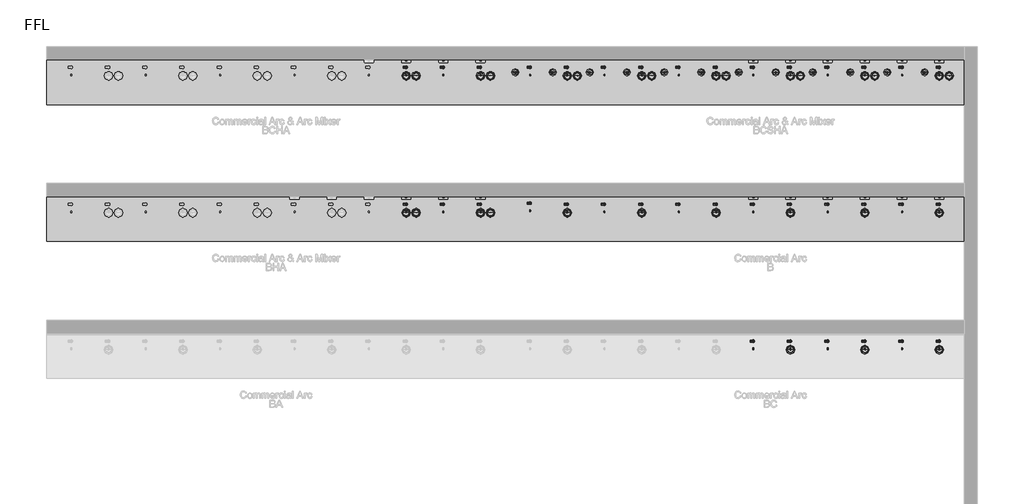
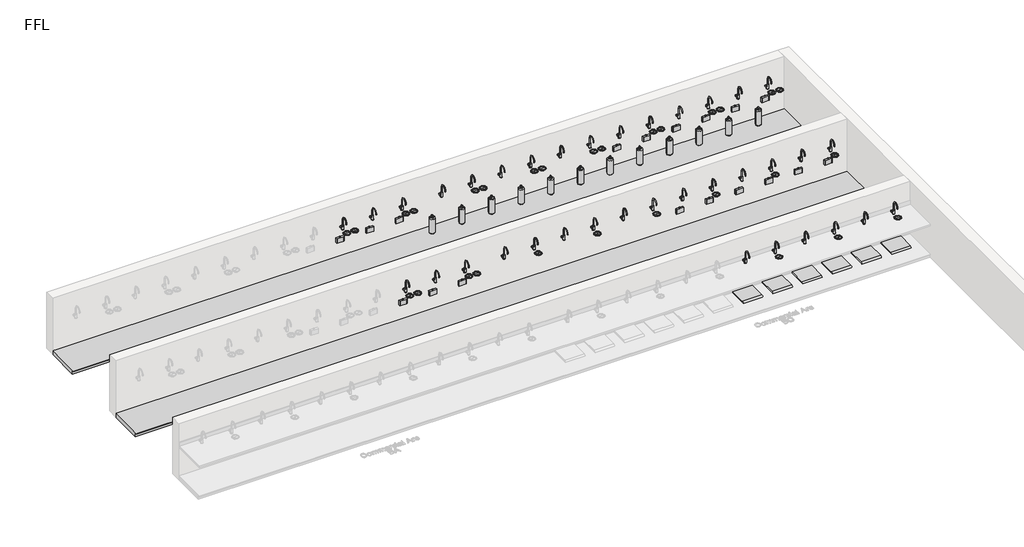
# One storey, part 6 of 10: 104 flow terminals, 2 furniture elements.
"""IFC4 building model written with IfcOpenShell, lengths in millimetres."""

from ifc_helpers import new_model, si_unit, origin, place, context, project, spatial, transform, mapped, element, save
from components import flow_terminal_100_people_matte_black_0dc622b1, flow_terminal_100_people_nickel_19c471c0, bcs_and_bc_6de74493, bright_chrome_743c02cf, bright_chrome_7ff5033f, co2_gas_cylinder_20234e14, generic_plinth_900mm_f287d53f

model = new_model("IFC4")

# Units and contexts
model_context = context("Model", 3, world=origin())
ifc_project = project(units=[si_unit("LENGTHUNIT", "METRE", prefix="MILLI")], contexts=[model_context])

# Site, building, storey
site = spatial("IfcSite", under=ifc_project)
building = spatial("IfcBuilding", under=site)
storey = spatial("IfcBuildingStorey", under=building, Name="FFL", Elevation=0.0)

# Flow terminals
placement = place(None, origin())
flow_terminal_100_people_matte_black_shape = flow_terminal_100_people_matte_black_0dc622b1(model_context)
element("IfcFlowTerminal", 1, ObjectType="PlumFixt_Zip Commercial_Arc_Arc Mixer_BCSHA : 100 People - Gold", at=placement, inside=storey, context=model_context, shape_type="MappedRepresentation", body=[
    mapped(flow_terminal_100_people_matte_black_shape, transform((7279.2647071, 7582.7393304, 0.0), x_axis=(1.0, 0.0, 0.0), y_axis=(0.0, 1.0, 0.0), z_axis=(0.0, 0.0, 1.0))),
])
element("IfcFlowTerminal", 2, ObjectType="PlumFixt_Zip Commercial_Arc_B : 100 People - Gold", at=placement, inside=storey, context=model_context, shape_type="MappedRepresentation", body=[
    mapped(flow_terminal_100_people_matte_black_shape, transform((7279.2647071, 4822.7393304, 0.0), x_axis=(1.0, 0.0, 0.0), y_axis=(0.0, 1.0, 0.0), z_axis=(0.0, 0.0, 1.0))),
])
element("IfcFlowTerminal", 3, ObjectType="PlumFixt_Zip Commercial_Arc_Arc Mixer_BCSHA : 100 People - Gunmetal", at=placement, inside=storey, context=model_context, shape_type="MappedRepresentation", body=[
    mapped(flow_terminal_100_people_matte_black_shape, transform((8029.2647071, 7582.7393304, 0.0), x_axis=(1.0, 0.0, 0.0), y_axis=(0.0, 1.0, 0.0), z_axis=(0.0, 0.0, 1.0))),
])
element("IfcFlowTerminal", 4, ObjectType="PlumFixt_Zip Commercial_Arc_B : 100 People - Gunmetal", at=placement, inside=storey, context=model_context, shape_type="MappedRepresentation", body=[
    mapped(flow_terminal_100_people_matte_black_shape, transform((8029.2647071, 4822.7393304, 0.0), x_axis=(1.0, 0.0, 0.0), y_axis=(0.0, 1.0, 0.0), z_axis=(0.0, 0.0, 1.0))),
])
element("IfcFlowTerminal", 5, ObjectType="PlumFixt_Zip Commercial_Arc_Arc Mixer_BCSHA : 100 People - Matte Black", at=placement, inside=storey, context=model_context, shape_type="MappedRepresentation", body=[
    mapped(flow_terminal_100_people_matte_black_shape, transform((8779.2647071, 7582.7393304, 0.0), x_axis=(1.0, 0.0, 0.0), y_axis=(0.0, 1.0, 0.0), z_axis=(0.0, 0.0, 1.0))),
])
element("IfcFlowTerminal", 6, ObjectType="PlumFixt_Zip Commercial_Arc_B : 100 People - Matte Black", at=placement, inside=storey, context=model_context, shape_type="MappedRepresentation", body=[
    mapped(flow_terminal_100_people_matte_black_shape, transform((8779.2647071, 4822.7393304, 0.0), x_axis=(1.0, 0.0, 0.0), y_axis=(0.0, 1.0, 0.0), z_axis=(0.0, 0.0, 1.0))),
])
element("IfcFlowTerminal", 7, ObjectType="PlumFixt_Zip Commercial_Arc_Arc Mixer_BCHA : 100 People - Nickel", at=placement, inside=storey, context=model_context, shape_type="MappedRepresentation", body=[
    mapped(flow_terminal_100_people_matte_black_shape, transform((279.2647071, 7582.7393304, 0.0), x_axis=(1.0, 0.0, 0.0), y_axis=(0.0, 1.0, 0.0), z_axis=(0.0, 0.0, 1.0))),
])
element("IfcFlowTerminal", 8, ObjectType="PlumFixt_Zip Commercial_Arc_Arc Mixer_BCSHA : 100 People - Nickel", at=placement, inside=storey, context=model_context, shape_type="MappedRepresentation", body=[
    mapped(flow_terminal_100_people_matte_black_shape, transform((9529.2647071, 7582.7393304, 0.0), x_axis=(1.0, 0.0, 0.0), y_axis=(0.0, 1.0, 0.0), z_axis=(0.0, 0.0, 1.0))),
])
element("IfcFlowTerminal", 9, ObjectType="PlumFixt_Zip Commercial_Arc_Arc Mixer_BHA : 100 People - Nickel", at=placement, inside=storey, context=model_context, shape_type="MappedRepresentation", body=[
    mapped(flow_terminal_100_people_matte_black_shape, transform((279.2647071, 4822.7393304, 0.0), x_axis=(1.0, 0.0, 0.0), y_axis=(0.0, 1.0, 0.0), z_axis=(0.0, 0.0, 1.0))),
])
element("IfcFlowTerminal", 10, ObjectType="PlumFixt_Zip Commercial_Arc_B : 100 People - Nickel", at=placement, inside=storey, context=model_context, shape_type="MappedRepresentation", body=[
    mapped(flow_terminal_100_people_matte_black_shape, transform((9529.2647071, 4822.7393304, 0.0), x_axis=(1.0, 0.0, 0.0), y_axis=(0.0, 1.0, 0.0), z_axis=(0.0, 0.0, 1.0))),
])
flow_terminal_100_people_nickel_shape = flow_terminal_100_people_nickel_19c471c0(model_context)
element("IfcFlowTerminal", 11, ObjectType="PlumFixt_Zip Commercial_Arc_BC : 100 People - Nickel", at=placement, inside=storey, context=model_context, shape_type="MappedRepresentation", body=[
    mapped(flow_terminal_100_people_nickel_shape, transform((9529.2647071, 2062.7393304, 0.0), x_axis=(1.0, 0.0, 0.0), y_axis=(0.0, 1.0, 0.0), z_axis=(0.0, 0.0, 1.0))),
])
element("IfcFlowTerminal", 12, ObjectType="PlumFixt_Zip Commercial_Arc_Arc Mixer_BCHA : 100 People - Platinum", at=placement, inside=storey, context=model_context, shape_type="MappedRepresentation", body=[
    mapped(flow_terminal_100_people_matte_black_shape, transform((1029.2647071, 7582.7393304, 0.0), x_axis=(1.0, 0.0, 0.0), y_axis=(0.0, 1.0, 0.0), z_axis=(0.0, 0.0, 1.0))),
])
element("IfcFlowTerminal", 13, ObjectType="PlumFixt_Zip Commercial_Arc_Arc Mixer_BCSHA : 100 People - Platinum", at=placement, inside=storey, context=model_context, shape_type="MappedRepresentation", body=[
    mapped(flow_terminal_100_people_matte_black_shape, transform((10279.2647071, 7582.7393304, 0.0), x_axis=(1.0, 0.0, 0.0), y_axis=(0.0, 1.0, 0.0), z_axis=(0.0, 0.0, 1.0))),
])
element("IfcFlowTerminal", 14, ObjectType="PlumFixt_Zip Commercial_Arc_Arc Mixer_BHA : 100 People - Platinum", at=placement, inside=storey, context=model_context, shape_type="MappedRepresentation", body=[
    mapped(flow_terminal_100_people_matte_black_shape, transform((1029.2647071, 4822.7393304, 0.0), x_axis=(1.0, 0.0, 0.0), y_axis=(0.0, 1.0, 0.0), z_axis=(0.0, 0.0, 1.0))),
])
element("IfcFlowTerminal", 15, ObjectType="PlumFixt_Zip Commercial_Arc_B : 100 People - Platinum", at=placement, inside=storey, context=model_context, shape_type="MappedRepresentation", body=[
    mapped(flow_terminal_100_people_matte_black_shape, transform((10279.2647071, 4822.7393304, 0.0), x_axis=(1.0, 0.0, 0.0), y_axis=(0.0, 1.0, 0.0), z_axis=(0.0, 0.0, 1.0))),
])
element("IfcFlowTerminal", 16, ObjectType="PlumFixt_Zip Commercial_Arc_BC : 100 People - Platinum", at=placement, inside=storey, context=model_context, shape_type="MappedRepresentation", body=[
    mapped(flow_terminal_100_people_nickel_shape, transform((10279.2647071, 2062.7393304, 0.0), x_axis=(1.0, 0.0, 0.0), y_axis=(0.0, 1.0, 0.0), z_axis=(0.0, 0.0, 1.0))),
])
element("IfcFlowTerminal", 17, ObjectType="PlumFixt_Zip Commercial_Arc_Arc Mixer_BCHA : 100 People - Rose Gold", at=placement, inside=storey, context=model_context, shape_type="MappedRepresentation", body=[
    mapped(flow_terminal_100_people_matte_black_shape, transform((1779.2647071, 7582.7393304, 0.0), x_axis=(1.0, 0.0, 0.0), y_axis=(0.0, 1.0, 0.0), z_axis=(0.0, 0.0, 1.0))),
])
element("IfcFlowTerminal", 18, ObjectType="PlumFixt_Zip Commercial_Arc_Arc Mixer_BCSHA : 100 People - Rose Gold", at=placement, inside=storey, context=model_context, shape_type="MappedRepresentation", body=[
    mapped(flow_terminal_100_people_matte_black_shape, transform((11029.2647071, 7582.7393304, 0.0), x_axis=(1.0, 0.0, 0.0), y_axis=(0.0, 1.0, 0.0), z_axis=(0.0, 0.0, 1.0))),
])
element("IfcFlowTerminal", 19, ObjectType="PlumFixt_Zip Commercial_Arc_Arc Mixer_BHA : 100 People - Rose Gold", at=placement, inside=storey, context=model_context, shape_type="MappedRepresentation", body=[
    mapped(flow_terminal_100_people_matte_black_shape, transform((1779.2647071, 4822.7393304, 0.0), x_axis=(1.0, 0.0, 0.0), y_axis=(0.0, 1.0, 0.0), z_axis=(0.0, 0.0, 1.0))),
])
element("IfcFlowTerminal", 20, ObjectType="PlumFixt_Zip Commercial_Arc_B : 100 People - Rose Gold", at=placement, inside=storey, context=model_context, shape_type="MappedRepresentation", body=[
    mapped(flow_terminal_100_people_matte_black_shape, transform((11029.2647071, 4822.7393304, 0.0), x_axis=(1.0, 0.0, 0.0), y_axis=(0.0, 1.0, 0.0), z_axis=(0.0, 0.0, 1.0))),
])
element("IfcFlowTerminal", 21, ObjectType="PlumFixt_Zip Commercial_Arc_BC : 100 People - Rose Gold", at=placement, inside=storey, context=model_context, shape_type="MappedRepresentation", body=[
    mapped(flow_terminal_100_people_nickel_shape, transform((11029.2647071, 2062.7393304, 0.0), x_axis=(1.0, 0.0, 0.0), y_axis=(0.0, 1.0, 0.0), z_axis=(0.0, 0.0, 1.0))),
])
bcs_and_bc_shape = bcs_and_bc_6de74493(model_context)
element("IfcFlowTerminal", 22, ObjectType="z_PlumFixt_Zip_Vent Tray : BCS and BC", at=placement, inside=storey, context=model_context, shape_type="MappedRepresentation", body=[
    mapped(bcs_and_bc_shape, transform((7279.2647071, 2185.7393304, 100.0), x_axis=(1.0, 0.0, 0.0), y_axis=(0.0, 1.0, 0.0), z_axis=(0.0, 0.0, 1.0))),
])
element("IfcFlowTerminal", 23, ObjectType="z_PlumFixt_Zip_Vent Tray : BCS and BC", at=placement, inside=storey, context=model_context, shape_type="MappedRepresentation", body=[
    mapped(bcs_and_bc_shape, transform((8029.2647071, 2185.7393304, 100.0), x_axis=(1.0, 0.0, 0.0), y_axis=(0.0, 1.0, 0.0), z_axis=(0.0, 0.0, 1.0))),
])
element("IfcFlowTerminal", 24, ObjectType="z_PlumFixt_Zip_Vent Tray : BCS and BC", at=placement, inside=storey, context=model_context, shape_type="MappedRepresentation", body=[
    mapped(bcs_and_bc_shape, transform((8779.2647071, 2185.7393304, 100.0), x_axis=(1.0, 0.0, 0.0), y_axis=(0.0, 1.0, 0.0), z_axis=(0.0, 0.0, 1.0))),
])
element("IfcFlowTerminal", 25, ObjectType="z_PlumFixt_Zip_Vent Tray : BCS and BC", at=placement, inside=storey, context=model_context, shape_type="MappedRepresentation", body=[
    mapped(bcs_and_bc_shape, transform((9529.2647071, 2185.7393304, 100.0), x_axis=(1.0, 0.0, 0.0), y_axis=(0.0, 1.0, 0.0), z_axis=(0.0, 0.0, 1.0))),
])
element("IfcFlowTerminal", 26, ObjectType="z_PlumFixt_Zip_Vent Tray : BCS and BC", at=placement, inside=storey, context=model_context, shape_type="MappedRepresentation", body=[
    mapped(bcs_and_bc_shape, transform((10279.2647071, 2185.7393304, 100.0), x_axis=(1.0, 0.0, 0.0), y_axis=(0.0, 1.0, 0.0), z_axis=(0.0, 0.0, 1.0))),
])
element("IfcFlowTerminal", 27, ObjectType="z_PlumFixt_Zip_Vent Tray : BCS and BC", at=placement, inside=storey, context=model_context, shape_type="MappedRepresentation", body=[
    mapped(bcs_and_bc_shape, transform((11029.2647071, 2185.7393304, 100.0), x_axis=(1.0, 0.0, 0.0), y_axis=(0.0, 1.0, 0.0), z_axis=(0.0, 0.0, 1.0))),
])
bright_chrome_shape = bright_chrome_743c02cf(model_context)
element("IfcFlowTerminal", 28, ObjectType="z_PlumFixt_Zip_Font : Bright Chrome", at=placement, inside=storey, context=model_context, shape_type="MappedRepresentation", body=[
    mapped(bright_chrome_shape, transform((3529.2647071, 4751.2393304, 900.0), x_axis=(1.0000000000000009, 0.0, 0.0), y_axis=(0.0, 1.0000000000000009, 0.0), z_axis=(0.0, 0.0, 1.0))),
])
element("IfcFlowTerminal", 29, ObjectType="z_PlumFixt_Zip_Font : Bright Chrome", at=placement, inside=storey, context=model_context, shape_type="MappedRepresentation", body=[
    mapped(bright_chrome_shape, transform((5029.2647071, 4751.2393304, 900.0), x_axis=(1.0000000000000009, 0.0, 0.0), y_axis=(0.0, 1.0000000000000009, 0.0), z_axis=(0.0, 0.0, 1.0))),
])
element("IfcFlowTerminal", 30, ObjectType="z_PlumFixt_Zip_Font : Bright Chrome", at=placement, inside=storey, context=model_context, shape_type="MappedRepresentation", body=[
    mapped(bright_chrome_shape, transform((6529.2647071, 4751.2393304, 900.0), x_axis=(1.0000000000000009, 0.0, 0.0), y_axis=(0.0, 1.0000000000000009, 0.0), z_axis=(0.0, 0.0, 1.0))),
])
element("IfcFlowTerminal", 31, ObjectType="z_PlumFixt_Zip_Font : Bright Chrome", at=placement, inside=storey, context=model_context, shape_type="MappedRepresentation", body=[
    mapped(bright_chrome_shape, transform((8029.2647071, 4751.2393304, 900.0), x_axis=(1.0000000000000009, 0.0, 0.0), y_axis=(0.0, 1.0000000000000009, 0.0), z_axis=(0.0, 0.0, 1.0))),
])
element("IfcFlowTerminal", 32, ObjectType="z_PlumFixt_Zip_Font : Bright Chrome", at=placement, inside=storey, context=model_context, shape_type="MappedRepresentation", body=[
    mapped(bright_chrome_shape, transform((9529.2647071, 4751.2393304, 900.0), x_axis=(1.0000000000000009, 0.0, 0.0), y_axis=(0.0, 1.0000000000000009, 0.0), z_axis=(0.0, 0.0, 1.0))),
])
element("IfcFlowTerminal", 33, ObjectType="z_PlumFixt_Zip_Font : Bright Chrome", at=placement, inside=storey, context=model_context, shape_type="MappedRepresentation", body=[
    mapped(bright_chrome_shape, transform((11029.2647071, 4751.2393304, 900.0), x_axis=(1.0000000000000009, 0.0, 0.0), y_axis=(0.0, 1.0000000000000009, 0.0), z_axis=(0.0, 0.0, 1.0))),
])
element("IfcFlowTerminal", 34, ObjectType="z_PlumFixt_Zip_Font : Bright Chrome", at=placement, inside=storey, context=model_context, shape_type="MappedRepresentation", body=[
    mapped(bright_chrome_shape, transform((8029.2647071, 1991.2393304, 900.0), x_axis=(1.0000000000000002, 0.0, 0.0), y_axis=(0.0, 1.0000000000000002, 0.0), z_axis=(0.0, 0.0, 1.0))),
])
element("IfcFlowTerminal", 35, ObjectType="z_PlumFixt_Zip_Font : Bright Chrome", at=placement, inside=storey, context=model_context, shape_type="MappedRepresentation", body=[
    mapped(bright_chrome_shape, transform((9529.2647071, 1991.2393304, 900.0), x_axis=(1.0000000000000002, 0.0, 0.0), y_axis=(0.0, 1.0000000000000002, 0.0), z_axis=(0.0, 0.0, 1.0))),
])
element("IfcFlowTerminal", 36, ObjectType="z_PlumFixt_Zip_Font : Bright Chrome", at=placement, inside=storey, context=model_context, shape_type="MappedRepresentation", body=[
    mapped(bright_chrome_shape, transform((11029.2647071, 1991.2393304, 900.0), x_axis=(1.0000000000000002, 0.0, 0.0), y_axis=(0.0, 1.0000000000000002, 0.0), z_axis=(0.0, 0.0, 1.0))),
])
element("IfcFlowTerminal", 37, ObjectType="z_PlumFixt_Zip_Font : Bright Chrome", at=placement, inside=storey, context=model_context, shape_type="MappedRepresentation", body=[
    mapped(bright_chrome_shape, transform((279.2647071, 7511.2393304, 900.0), x_axis=(1.0000000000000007, 0.0, 0.0), y_axis=(0.0, 1.0000000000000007, 0.0), z_axis=(0.0, 0.0, 1.0))),
])
element("IfcFlowTerminal", 38, ObjectType="z_PlumFixt_Zip_Font : Bright Chrome", at=placement, inside=storey, context=model_context, shape_type="MappedRepresentation", body=[
    mapped(bright_chrome_shape, transform((1779.2647071, 7511.2393304, 900.0), x_axis=(1.0000000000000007, 0.0, 0.0), y_axis=(0.0, 1.0000000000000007, 0.0), z_axis=(0.0, 0.0, 1.0))),
])
element("IfcFlowTerminal", 39, ObjectType="z_PlumFixt_Zip_Font : Bright Chrome", at=placement, inside=storey, context=model_context, shape_type="MappedRepresentation", body=[
    mapped(bright_chrome_shape, transform((479.2647071, 7511.2393304, 900.0), x_axis=(1.0000000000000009, 0.0, 0.0), y_axis=(0.0, 1.0000000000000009, 0.0), z_axis=(0.0, 0.0, 1.0))),
])
element("IfcFlowTerminal", 40, ObjectType="z_PlumFixt_Zip_Font : Bright Chrome", at=placement, inside=storey, context=model_context, shape_type="MappedRepresentation", body=[
    mapped(bright_chrome_shape, transform((1979.2647071, 7511.2393304, 900.0), x_axis=(1.0000000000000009, 0.0, 0.0), y_axis=(0.0, 1.0000000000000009, 0.0), z_axis=(0.0, 0.0, 1.0))),
])
element("IfcFlowTerminal", 41, ObjectType="z_PlumFixt_Zip_Font : Bright Chrome", at=placement, inside=storey, context=model_context, shape_type="MappedRepresentation", body=[
    mapped(bright_chrome_shape, transform((3529.2647071, 7511.2393304, 900.0), x_axis=(1.0000000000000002, 0.0, 0.0), y_axis=(0.0, 1.0000000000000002, 0.0), z_axis=(0.0, 0.0, 1.0))),
])
element("IfcFlowTerminal", 42, ObjectType="z_PlumFixt_Zip_Font : Bright Chrome", at=placement, inside=storey, context=model_context, shape_type="MappedRepresentation", body=[
    mapped(bright_chrome_shape, transform((3729.2647071, 7511.2393304, 900.0), x_axis=(1.0000000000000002, 0.0, 0.0), y_axis=(0.0, 1.0000000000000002, 0.0), z_axis=(0.0, 0.0, 1.0))),
])
element("IfcFlowTerminal", 43, ObjectType="z_PlumFixt_Zip_Font : Bright Chrome", at=placement, inside=storey, context=model_context, shape_type="MappedRepresentation", body=[
    mapped(bright_chrome_shape, transform((5029.2647071, 7511.2393304, 900.0), x_axis=(1.0000000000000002, 0.0, 0.0), y_axis=(0.0, 1.0000000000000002, 0.0), z_axis=(0.0, 0.0, 1.0))),
])
element("IfcFlowTerminal", 44, ObjectType="z_PlumFixt_Zip_Font : Bright Chrome", at=placement, inside=storey, context=model_context, shape_type="MappedRepresentation", body=[
    mapped(bright_chrome_shape, transform((5229.2647071, 7511.2393304, 900.0), x_axis=(1.0000000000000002, 0.0, 0.0), y_axis=(0.0, 1.0000000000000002, 0.0), z_axis=(0.0, 0.0, 1.0))),
])
element("IfcFlowTerminal", 45, ObjectType="z_PlumFixt_Zip_Font : Bright Chrome", at=placement, inside=storey, context=model_context, shape_type="MappedRepresentation", body=[
    mapped(bright_chrome_shape, transform((6529.2647071, 7511.2393304, 900.0), x_axis=(1.0000000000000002, 0.0, 0.0), y_axis=(0.0, 1.0000000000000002, 0.0), z_axis=(0.0, 0.0, 1.0))),
])
element("IfcFlowTerminal", 46, ObjectType="z_PlumFixt_Zip_Font : Bright Chrome", at=placement, inside=storey, context=model_context, shape_type="MappedRepresentation", body=[
    mapped(bright_chrome_shape, transform((6729.2647071, 7511.2393304, 900.0), x_axis=(1.0000000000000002, 0.0, 0.0), y_axis=(0.0, 1.0000000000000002, 0.0), z_axis=(0.0, 0.0, 1.0))),
])
element("IfcFlowTerminal", 47, ObjectType="z_PlumFixt_Zip_Font : Bright Chrome", at=placement, inside=storey, context=model_context, shape_type="MappedRepresentation", body=[
    mapped(bright_chrome_shape, transform((8029.2647071, 7511.2393304, 900.0), x_axis=(1.0000000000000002, 0.0, 0.0), y_axis=(0.0, 1.0000000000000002, 0.0), z_axis=(0.0, 0.0, 1.0))),
])
element("IfcFlowTerminal", 48, ObjectType="z_PlumFixt_Zip_Font : Bright Chrome", at=placement, inside=storey, context=model_context, shape_type="MappedRepresentation", body=[
    mapped(bright_chrome_shape, transform((8229.2647071, 7511.2393304, 900.0), x_axis=(1.0000000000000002, 0.0, 0.0), y_axis=(0.0, 1.0000000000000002, 0.0), z_axis=(0.0, 0.0, 1.0))),
])
element("IfcFlowTerminal", 49, ObjectType="z_PlumFixt_Zip_Font : Bright Chrome", at=placement, inside=storey, context=model_context, shape_type="MappedRepresentation", body=[
    mapped(bright_chrome_shape, transform((11029.2647071, 7511.2393304, 900.0), x_axis=(1.0000000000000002, 0.0, 0.0), y_axis=(0.0, 1.0000000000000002, 0.0), z_axis=(0.0, 0.0, 1.0))),
])
element("IfcFlowTerminal", 50, ObjectType="z_PlumFixt_Zip_Font : Bright Chrome", at=placement, inside=storey, context=model_context, shape_type="MappedRepresentation", body=[
    mapped(bright_chrome_shape, transform((11229.2647071, 7511.2393304, 900.0), x_axis=(1.0000000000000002, 0.0, 0.0), y_axis=(0.0, 1.0000000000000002, 0.0), z_axis=(0.0, 0.0, 1.0))),
])
element("IfcFlowTerminal", 51, ObjectType="z_PlumFixt_Zip_Font : Bright Chrome", at=placement, inside=storey, context=model_context, shape_type="MappedRepresentation", body=[
    mapped(bright_chrome_shape, transform((9529.2647071, 7511.2393304, 900.0), x_axis=(1.0000000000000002, 0.0, 0.0), y_axis=(0.0, 1.0000000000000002, 0.0), z_axis=(0.0, 0.0, 1.0))),
])
element("IfcFlowTerminal", 52, ObjectType="z_PlumFixt_Zip_Font : Bright Chrome", at=placement, inside=storey, context=model_context, shape_type="MappedRepresentation", body=[
    mapped(bright_chrome_shape, transform((9729.2647071, 7511.2393304, 900.0), x_axis=(1.0000000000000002, 0.0, 0.0), y_axis=(0.0, 1.0000000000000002, 0.0), z_axis=(0.0, 0.0, 1.0))),
])
element("IfcFlowTerminal", 53, ObjectType="z_PlumFixt_Zip_Font : Bright Chrome", at=placement, inside=storey, context=model_context, shape_type="MappedRepresentation", body=[
    mapped(bright_chrome_shape, transform((279.2647071, 4751.2393304, 900.0), x_axis=(1.0000000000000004, 0.0, 0.0), y_axis=(0.0, 1.0000000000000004, 0.0), z_axis=(0.0, 0.0, 1.0))),
])
element("IfcFlowTerminal", 54, ObjectType="z_PlumFixt_Zip_Font : Bright Chrome", at=placement, inside=storey, context=model_context, shape_type="MappedRepresentation", body=[
    mapped(bright_chrome_shape, transform((1779.2647071, 4751.2393304, 900.0), x_axis=(1.0000000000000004, 0.0, 0.0), y_axis=(0.0, 1.0000000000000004, 0.0), z_axis=(0.0, 0.0, 1.0))),
])
element("IfcFlowTerminal", 55, ObjectType="z_PlumFixt_Zip_Font : Bright Chrome", at=placement, inside=storey, context=model_context, shape_type="MappedRepresentation", body=[
    mapped(bright_chrome_shape, transform((479.2647071, 4751.2393304, 900.0), x_axis=(1.0000000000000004, 0.0, 0.0), y_axis=(0.0, 1.0000000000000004, 0.0), z_axis=(0.0, 0.0, 1.0))),
])
element("IfcFlowTerminal", 56, ObjectType="z_PlumFixt_Zip_Font : Bright Chrome", at=placement, inside=storey, context=model_context, shape_type="MappedRepresentation", body=[
    mapped(bright_chrome_shape, transform((1979.2647071, 4751.2393304, 900.0), x_axis=(1.0000000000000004, 0.0, 0.0), y_axis=(0.0, 1.0000000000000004, 0.0), z_axis=(0.0, 0.0, 1.0))),
])
bright_chrome_2_shape = bright_chrome_7ff5033f(model_context)
element("IfcFlowTerminal", 57, ObjectType="z_PlumFixt_Zip_Arc : Bright Chrome", at=placement, inside=storey, context=model_context, shape_type="MappedRepresentation", body=[
    mapped(bright_chrome_2_shape, transform((2762.2647071, 4874.763717, 900.0), x_axis=(1.0000000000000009, 0.0, 0.0), y_axis=(0.0, 1.0000000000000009, 0.0), z_axis=(0.0, 0.0, 1.0))),
])
element("IfcFlowTerminal", 58, ObjectType="z_PlumFixt_Zip_Arc : Bright Chrome", at=placement, inside=storey, context=model_context, shape_type="MappedRepresentation", body=[
    mapped(bright_chrome_2_shape, transform((2762.2647071, 7610.7393304, 900.0), x_axis=(1.0000000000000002, 0.0, 0.0), y_axis=(0.0, 1.0000000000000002, 0.0), z_axis=(0.0, 0.0, 1.0))),
])
element("IfcFlowTerminal", 59, ObjectType="z_PlumFixt_Zip_Arc : Brushed Chrome", at=placement, inside=storey, context=model_context, shape_type="MappedRepresentation", body=[
    mapped(bright_chrome_2_shape, transform((3512.2647071, 4850.7393304, 900.0), x_axis=(1.0000000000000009, 0.0, 0.0), y_axis=(0.0, 1.0000000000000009, 0.0), z_axis=(0.0, 0.0, 1.0))),
])
element("IfcFlowTerminal", 60, ObjectType="z_PlumFixt_Zip_Arc : Brushed Chrome", at=placement, inside=storey, context=model_context, shape_type="MappedRepresentation", body=[
    mapped(bright_chrome_2_shape, transform((3512.2647071, 7610.7393304, 900.0), x_axis=(1.0000000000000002, 0.0, 0.0), y_axis=(0.0, 1.0000000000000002, 0.0), z_axis=(0.0, 0.0, 1.0))),
])
element("IfcFlowTerminal", 61, ObjectType="z_PlumFixt_Zip_Arc : Brushed Gold", at=placement, inside=storey, context=model_context, shape_type="MappedRepresentation", body=[
    mapped(bright_chrome_2_shape, transform((4262.2647071, 4850.7393304, 900.0), x_axis=(1.0000000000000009, 0.0, 0.0), y_axis=(0.0, 1.0000000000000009, 0.0), z_axis=(0.0, 0.0, 1.0))),
])
element("IfcFlowTerminal", 62, ObjectType="z_PlumFixt_Zip_Arc : Brushed Gold", at=placement, inside=storey, context=model_context, shape_type="MappedRepresentation", body=[
    mapped(bright_chrome_2_shape, transform((4262.2647071, 7610.7393304, 900.0), x_axis=(1.0000000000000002, 0.0, 0.0), y_axis=(0.0, 1.0000000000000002, 0.0), z_axis=(0.0, 0.0, 1.0))),
])
element("IfcFlowTerminal", 63, ObjectType="z_PlumFixt_Zip_Arc : Brushed Nickel", at=placement, inside=storey, context=model_context, shape_type="MappedRepresentation", body=[
    mapped(bright_chrome_2_shape, transform((5012.2647071, 4850.7393304, 900.0), x_axis=(1.0000000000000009, 0.0, 0.0), y_axis=(0.0, 1.0000000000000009, 0.0), z_axis=(0.0, 0.0, 1.0))),
])
element("IfcFlowTerminal", 64, ObjectType="z_PlumFixt_Zip_Arc : Brushed Nickel", at=placement, inside=storey, context=model_context, shape_type="MappedRepresentation", body=[
    mapped(bright_chrome_2_shape, transform((5012.2647071, 7610.7393304, 900.0), x_axis=(1.0000000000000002, 0.0, 0.0), y_axis=(0.0, 1.0000000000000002, 0.0), z_axis=(0.0, 0.0, 1.0))),
])
element("IfcFlowTerminal", 65, ObjectType="z_PlumFixt_Zip_Arc : Brushed Rose Gold", at=placement, inside=storey, context=model_context, shape_type="MappedRepresentation", body=[
    mapped(bright_chrome_2_shape, transform((5762.2647071, 4850.7393304, 900.0), x_axis=(1.0000000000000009, 0.0, 0.0), y_axis=(0.0, 1.0000000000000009, 0.0), z_axis=(0.0, 0.0, 1.0))),
])
element("IfcFlowTerminal", 66, ObjectType="z_PlumFixt_Zip_Arc : Brushed Rose Gold", at=placement, inside=storey, context=model_context, shape_type="MappedRepresentation", body=[
    mapped(bright_chrome_2_shape, transform((5762.2647071, 7610.7393304, 900.0), x_axis=(1.0000000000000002, 0.0, 0.0), y_axis=(0.0, 1.0000000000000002, 0.0), z_axis=(0.0, 0.0, 1.0))),
])
co2_gas_cylinder_shape = co2_gas_cylinder_20234e14(model_context)
element("IfcFlowTerminal", 67, ObjectType="z_PlumFixt_Zip_CO2 Gas Cylinder : CO2 Gas Cylinder", at=placement, inside=storey, context=model_context, shape_type="MappedRepresentation", body=[
    mapped(co2_gas_cylinder_shape, transform((2484.2647071, 7509.2393304, 100.0), x_axis=(-1.0, 0.0, 0.0), y_axis=(0.0, -1.0, 0.0), z_axis=(0.0, 0.0, 1.0))),
])
element("IfcFlowTerminal", 68, ObjectType="z_PlumFixt_Zip_CO2 Gas Cylinder : CO2 Gas Cylinder", at=placement, inside=storey, context=model_context, shape_type="MappedRepresentation", body=[
    mapped(co2_gas_cylinder_shape, transform((3234.2647071, 7509.2393304, 100.0), x_axis=(-1.0, 0.0, 0.0), y_axis=(0.0, -1.0, 0.0), z_axis=(0.0, 0.0, 1.0))),
])
element("IfcFlowTerminal", 69, ObjectType="z_PlumFixt_Zip_CO2 Gas Cylinder : CO2 Gas Cylinder", at=placement, inside=storey, context=model_context, shape_type="MappedRepresentation", body=[
    mapped(co2_gas_cylinder_shape, transform((3984.2647071, 7509.2393304, 100.0), x_axis=(-1.0, 0.0, 0.0), y_axis=(0.0, -1.0, 0.0), z_axis=(0.0, 0.0, 1.0))),
])
element("IfcFlowTerminal", 70, ObjectType="z_PlumFixt_Zip_CO2 Gas Cylinder : CO2 Gas Cylinder", at=placement, inside=storey, context=model_context, shape_type="MappedRepresentation", body=[
    mapped(co2_gas_cylinder_shape, transform((4734.2647071, 7509.2393304, 100.0), x_axis=(-1.0, 0.0, 0.0), y_axis=(0.0, -1.0, 0.0), z_axis=(0.0, 0.0, 1.0))),
])
element("IfcFlowTerminal", 71, ObjectType="z_PlumFixt_Zip_CO2 Gas Cylinder : CO2 Gas Cylinder", at=placement, inside=storey, context=model_context, shape_type="MappedRepresentation", body=[
    mapped(co2_gas_cylinder_shape, transform((5484.2647071, 7509.2393304, 100.0), x_axis=(-1.0, 0.0, 0.0), y_axis=(0.0, -1.0, 0.0), z_axis=(0.0, 0.0, 1.0))),
])
element("IfcFlowTerminal", 72, ObjectType="z_PlumFixt_Zip_CO2 Gas Cylinder : CO2 Gas Cylinder", at=placement, inside=storey, context=model_context, shape_type="MappedRepresentation", body=[
    mapped(co2_gas_cylinder_shape, transform((6234.2647071, 7509.2393304, 100.0), x_axis=(-1.0, 0.0, 0.0), y_axis=(0.0, -1.0, 0.0), z_axis=(0.0, 0.0, 1.0))),
])
element("IfcFlowTerminal", 73, ObjectType="z_PlumFixt_Zip_CO2 Gas Cylinder : CO2 Gas Cylinder", at=placement, inside=storey, context=model_context, shape_type="MappedRepresentation", body=[
    mapped(co2_gas_cylinder_shape, transform((6984.2647071, 7509.2393304, 100.0), x_axis=(-1.0, 0.0, 0.0), y_axis=(0.0, -1.0, 0.0), z_axis=(0.0, 0.0, 1.0))),
])
element("IfcFlowTerminal", 74, ObjectType="z_PlumFixt_Zip_CO2 Gas Cylinder : CO2 Gas Cylinder", at=placement, inside=storey, context=model_context, shape_type="MappedRepresentation", body=[
    mapped(co2_gas_cylinder_shape, transform((7734.2647071, 7509.2393304, 100.0), x_axis=(-1.0, 0.0, 0.0), y_axis=(0.0, -1.0, 0.0), z_axis=(0.0, 0.0, 1.0))),
])
element("IfcFlowTerminal", 75, ObjectType="z_PlumFixt_Zip_CO2 Gas Cylinder : CO2 Gas Cylinder", at=placement, inside=storey, context=model_context, shape_type="MappedRepresentation", body=[
    mapped(co2_gas_cylinder_shape, transform((8484.2647071, 7509.2393304, 100.0), x_axis=(-1.0, 0.0, 0.0), y_axis=(0.0, -1.0, 0.0), z_axis=(0.0, 0.0, 1.0))),
])
element("IfcFlowTerminal", 76, ObjectType="z_PlumFixt_Zip_CO2 Gas Cylinder : CO2 Gas Cylinder", at=placement, inside=storey, context=model_context, shape_type="MappedRepresentation", body=[
    mapped(co2_gas_cylinder_shape, transform((9234.2647071, 7509.2393304, 100.0), x_axis=(-1.0, 0.0, 0.0), y_axis=(0.0, -1.0, 0.0), z_axis=(0.0, 0.0, 1.0))),
])
element("IfcFlowTerminal", 77, ObjectType="z_PlumFixt_Zip_CO2 Gas Cylinder : CO2 Gas Cylinder", at=placement, inside=storey, context=model_context, shape_type="MappedRepresentation", body=[
    mapped(co2_gas_cylinder_shape, transform((9984.2647071, 7509.2393304, 100.0), x_axis=(-1.0, 0.0, 0.0), y_axis=(0.0, -1.0, 0.0), z_axis=(0.0, 0.0, 1.0))),
])
element("IfcFlowTerminal", 78, ObjectType="z_PlumFixt_Zip_CO2 Gas Cylinder : CO2 Gas Cylinder", at=placement, inside=storey, context=model_context, shape_type="MappedRepresentation", body=[
    mapped(co2_gas_cylinder_shape, transform((10734.2647071, 7509.2393304, 100.0), x_axis=(-1.0, 0.0, 0.0), y_axis=(0.0, -1.0, 0.0), z_axis=(0.0, 0.0, 1.0))),
])
element("IfcFlowTerminal", 79, ObjectType="z_PlumFixt_Zip_Arc : Gloss Black", at=placement, inside=storey, context=model_context, shape_type="MappedRepresentation", body=[
    mapped(bright_chrome_2_shape, transform((6512.2647071, 4850.7393304, 900.0), x_axis=(1.0000000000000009, 0.0, 0.0), y_axis=(0.0, 1.0000000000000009, 0.0), z_axis=(0.0, 0.0, 1.0))),
])
element("IfcFlowTerminal", 80, ObjectType="z_PlumFixt_Zip_Arc : Gloss Black", at=placement, inside=storey, context=model_context, shape_type="MappedRepresentation", body=[
    mapped(bright_chrome_2_shape, transform((6512.2647071, 7610.7393304, 900.0), x_axis=(1.0000000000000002, 0.0, 0.0), y_axis=(0.0, 1.0000000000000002, 0.0), z_axis=(0.0, 0.0, 1.0))),
])
element("IfcFlowTerminal", 81, ObjectType="z_PlumFixt_Zip_Arc : Gold", at=placement, inside=storey, context=model_context, shape_type="MappedRepresentation", body=[
    mapped(bright_chrome_2_shape, transform((7262.2647071, 4850.7393304, 900.0), x_axis=(1.0000000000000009, 0.0, 0.0), y_axis=(0.0, 1.0000000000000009, 0.0), z_axis=(0.0, 0.0, 1.0))),
])
element("IfcFlowTerminal", 82, ObjectType="z_PlumFixt_Zip_Arc : Gold", at=placement, inside=storey, context=model_context, shape_type="MappedRepresentation", body=[
    mapped(bright_chrome_2_shape, transform((7262.2647071, 2090.7393304, 900.0), x_axis=(1.0000000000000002, 0.0, 0.0), y_axis=(0.0, 1.0000000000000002, 0.0), z_axis=(0.0, 0.0, 1.0))),
])
element("IfcFlowTerminal", 83, ObjectType="z_PlumFixt_Zip_Arc : Gold", at=placement, inside=storey, context=model_context, shape_type="MappedRepresentation", body=[
    mapped(bright_chrome_2_shape, transform((7262.2647071, 7610.7393304, 900.0), x_axis=(1.0000000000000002, 0.0, 0.0), y_axis=(0.0, 1.0000000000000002, 0.0), z_axis=(0.0, 0.0, 1.0))),
])
element("IfcFlowTerminal", 84, ObjectType="z_PlumFixt_Zip_Arc : Gunmetal", at=placement, inside=storey, context=model_context, shape_type="MappedRepresentation", body=[
    mapped(bright_chrome_2_shape, transform((8012.2647071, 4850.7393304, 900.0), x_axis=(1.0000000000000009, 0.0, 0.0), y_axis=(0.0, 1.0000000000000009, 0.0), z_axis=(0.0, 0.0, 1.0))),
])
element("IfcFlowTerminal", 85, ObjectType="z_PlumFixt_Zip_Arc : Gunmetal", at=placement, inside=storey, context=model_context, shape_type="MappedRepresentation", body=[
    mapped(bright_chrome_2_shape, transform((8012.2647071, 2090.7393304, 900.0), x_axis=(1.0000000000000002, 0.0, 0.0), y_axis=(0.0, 1.0000000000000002, 0.0), z_axis=(0.0, 0.0, 1.0))),
])
element("IfcFlowTerminal", 86, ObjectType="z_PlumFixt_Zip_Arc : Gunmetal", at=placement, inside=storey, context=model_context, shape_type="MappedRepresentation", body=[
    mapped(bright_chrome_2_shape, transform((8012.2647071, 7610.7393304, 900.0), x_axis=(1.0000000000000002, 0.0, 0.0), y_axis=(0.0, 1.0000000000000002, 0.0), z_axis=(0.0, 0.0, 1.0))),
])
element("IfcFlowTerminal", 87, ObjectType="z_PlumFixt_Zip_Arc : Matte Black", at=placement, inside=storey, context=model_context, shape_type="MappedRepresentation", body=[
    mapped(bright_chrome_2_shape, transform((8762.2647071, 4850.7393304, 900.0), x_axis=(1.0000000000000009, 0.0, 0.0), y_axis=(0.0, 1.0000000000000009, 0.0), z_axis=(0.0, 0.0, 1.0))),
])
element("IfcFlowTerminal", 88, ObjectType="z_PlumFixt_Zip_Arc : Matte Black", at=placement, inside=storey, context=model_context, shape_type="MappedRepresentation", body=[
    mapped(bright_chrome_2_shape, transform((8762.2647071, 2090.7393304, 900.0), x_axis=(1.0000000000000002, 0.0, 0.0), y_axis=(0.0, 1.0000000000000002, 0.0), z_axis=(0.0, 0.0, 1.0))),
])
element("IfcFlowTerminal", 89, ObjectType="z_PlumFixt_Zip_Arc : Matte Black", at=placement, inside=storey, context=model_context, shape_type="MappedRepresentation", body=[
    mapped(bright_chrome_2_shape, transform((8762.2647071, 7610.7393304, 900.0), x_axis=(1.0000000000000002, 0.0, 0.0), y_axis=(0.0, 1.0000000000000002, 0.0), z_axis=(0.0, 0.0, 1.0))),
])
element("IfcFlowTerminal", 90, ObjectType="z_PlumFixt_Zip_Arc : Nickel", at=placement, inside=storey, context=model_context, shape_type="MappedRepresentation", body=[
    mapped(bright_chrome_2_shape, transform((9512.2647071, 4850.7393304, 900.0), x_axis=(1.0000000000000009, 0.0, 0.0), y_axis=(0.0, 1.0000000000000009, 0.0), z_axis=(0.0, 0.0, 1.0))),
])
element("IfcFlowTerminal", 91, ObjectType="z_PlumFixt_Zip_Arc : Nickel", at=placement, inside=storey, context=model_context, shape_type="MappedRepresentation", body=[
    mapped(bright_chrome_2_shape, transform((9512.2647071, 2090.7393304, 900.0), x_axis=(1.0000000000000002, 0.0, 0.0), y_axis=(0.0, 1.0000000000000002, 0.0), z_axis=(0.0, 0.0, 1.0))),
])
element("IfcFlowTerminal", 92, ObjectType="z_PlumFixt_Zip_Arc : Nickel", at=placement, inside=storey, context=model_context, shape_type="MappedRepresentation", body=[
    mapped(bright_chrome_2_shape, transform((262.2647071, 7610.7393304, 900.0), x_axis=(1.0000000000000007, 0.0, 0.0), y_axis=(0.0, 1.0000000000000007, 0.0), z_axis=(0.0, 0.0, 1.0))),
])
element("IfcFlowTerminal", 93, ObjectType="z_PlumFixt_Zip_Arc : Nickel", at=placement, inside=storey, context=model_context, shape_type="MappedRepresentation", body=[
    mapped(bright_chrome_2_shape, transform((9512.2647071, 7610.7393304, 900.0), x_axis=(1.0000000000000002, 0.0, 0.0), y_axis=(0.0, 1.0000000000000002, 0.0), z_axis=(0.0, 0.0, 1.0))),
])
element("IfcFlowTerminal", 94, ObjectType="z_PlumFixt_Zip_Arc : Nickel", at=placement, inside=storey, context=model_context, shape_type="MappedRepresentation", body=[
    mapped(bright_chrome_2_shape, transform((262.2647071, 4850.7393304, 900.0), x_axis=(1.0000000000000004, 0.0, 0.0), y_axis=(0.0, 1.0000000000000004, 0.0), z_axis=(0.0, 0.0, 1.0))),
])
element("IfcFlowTerminal", 95, ObjectType="z_PlumFixt_Zip_Arc : Platinum", at=placement, inside=storey, context=model_context, shape_type="MappedRepresentation", body=[
    mapped(bright_chrome_2_shape, transform((10262.2647071, 4850.7393304, 900.0), x_axis=(1.0000000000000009, 0.0, 0.0), y_axis=(0.0, 1.0000000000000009, 0.0), z_axis=(0.0, 0.0, 1.0))),
])
element("IfcFlowTerminal", 96, ObjectType="z_PlumFixt_Zip_Arc : Platinum", at=placement, inside=storey, context=model_context, shape_type="MappedRepresentation", body=[
    mapped(bright_chrome_2_shape, transform((10262.2647071, 2090.7393304, 900.0), x_axis=(1.0000000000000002, 0.0, 0.0), y_axis=(0.0, 1.0000000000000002, 0.0), z_axis=(0.0, 0.0, 1.0))),
])
element("IfcFlowTerminal", 97, ObjectType="z_PlumFixt_Zip_Arc : Platinum", at=placement, inside=storey, context=model_context, shape_type="MappedRepresentation", body=[
    mapped(bright_chrome_2_shape, transform((1012.2647071, 7610.7393304, 900.0), x_axis=(1.0000000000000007, 0.0, 0.0), y_axis=(0.0, 1.0000000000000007, 0.0), z_axis=(0.0, 0.0, 1.0))),
])
element("IfcFlowTerminal", 98, ObjectType="z_PlumFixt_Zip_Arc : Platinum", at=placement, inside=storey, context=model_context, shape_type="MappedRepresentation", body=[
    mapped(bright_chrome_2_shape, transform((10262.2647071, 7610.7393304, 900.0), x_axis=(1.0000000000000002, 0.0, 0.0), y_axis=(0.0, 1.0000000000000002, 0.0), z_axis=(0.0, 0.0, 1.0))),
])
element("IfcFlowTerminal", 99, ObjectType="z_PlumFixt_Zip_Arc : Platinum", at=placement, inside=storey, context=model_context, shape_type="MappedRepresentation", body=[
    mapped(bright_chrome_2_shape, transform((1012.2647071, 4850.7393304, 900.0), x_axis=(1.0000000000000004, 0.0, 0.0), y_axis=(0.0, 1.0000000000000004, 0.0), z_axis=(0.0, 0.0, 1.0))),
])
element("IfcFlowTerminal", 100, ObjectType="z_PlumFixt_Zip_Arc : Rose Gold", at=placement, inside=storey, context=model_context, shape_type="MappedRepresentation", body=[
    mapped(bright_chrome_2_shape, transform((11012.2647071, 4850.7393304, 900.0), x_axis=(1.0000000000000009, 0.0, 0.0), y_axis=(0.0, 1.0000000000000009, 0.0), z_axis=(0.0, 0.0, 1.0))),
])
element("IfcFlowTerminal", 101, ObjectType="z_PlumFixt_Zip_Arc : Rose Gold", at=placement, inside=storey, context=model_context, shape_type="MappedRepresentation", body=[
    mapped(bright_chrome_2_shape, transform((11012.2647071, 2090.7393304, 900.0), x_axis=(1.0000000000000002, 0.0, 0.0), y_axis=(0.0, 1.0000000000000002, 0.0), z_axis=(0.0, 0.0, 1.0))),
])
element("IfcFlowTerminal", 102, ObjectType="z_PlumFixt_Zip_Arc : Rose Gold", at=placement, inside=storey, context=model_context, shape_type="MappedRepresentation", body=[
    mapped(bright_chrome_2_shape, transform((1762.2647071, 7610.7393304, 900.0), x_axis=(1.0000000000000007, 0.0, 0.0), y_axis=(0.0, 1.0000000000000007, 0.0), z_axis=(0.0, 0.0, 1.0))),
])
element("IfcFlowTerminal", 103, ObjectType="z_PlumFixt_Zip_Arc : Rose Gold", at=placement, inside=storey, context=model_context, shape_type="MappedRepresentation", body=[
    mapped(bright_chrome_2_shape, transform((11012.2647071, 7610.7393304, 900.0), x_axis=(1.0000000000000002, 0.0, 0.0), y_axis=(0.0, 1.0000000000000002, 0.0), z_axis=(0.0, 0.0, 1.0))),
])
element("IfcFlowTerminal", 104, ObjectType="z_PlumFixt_Zip_Arc : Rose Gold", at=placement, inside=storey, context=model_context, shape_type="MappedRepresentation", body=[
    mapped(bright_chrome_2_shape, transform((1762.2647071, 4850.7393304, 900.0), x_axis=(1.0000000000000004, 0.0, 0.0), y_axis=(0.0, 1.0000000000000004, 0.0), z_axis=(0.0, 0.0, 1.0))),
])

# Furniture
generic_plinth_900mm_shape = generic_plinth_900mm_f287d53f(model_context)
element("IfcFurniture", 105, ObjectType="Generic Plinth : 900mm", at=placement, inside=storey, context=model_context, shape_type="MappedRepresentation", body=[
    mapped(generic_plinth_900mm_shape, transform((2261.5270022, 7848.2393304, 0.0), x_axis=(1.0, 0.0, 0.0), y_axis=(0.0, 1.0, 0.0), z_axis=(0.0, 0.0, 1.0))),
])
element("IfcFurniture", 106, ObjectType="Generic Plinth : 900mm", at=placement, inside=storey, context=model_context, shape_type="MappedRepresentation", body=[
    mapped(generic_plinth_900mm_shape, transform((2261.5270022, 5088.2393304, 0.0), x_axis=(1.0, 0.0, 0.0), y_axis=(0.0, 1.0, 0.0), z_axis=(0.0, 0.0, 1.0))),
])

save(model, "model.ifc")
